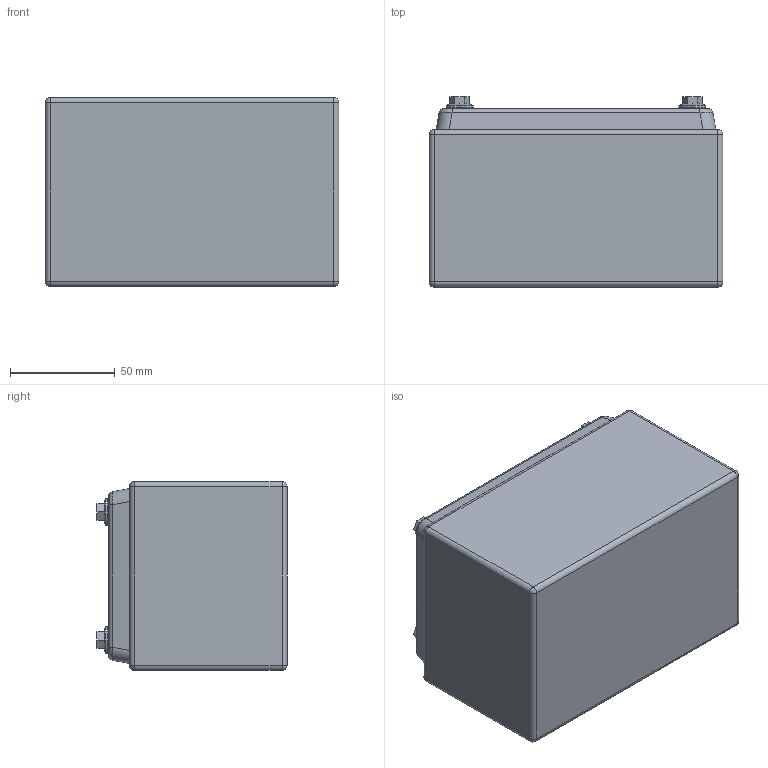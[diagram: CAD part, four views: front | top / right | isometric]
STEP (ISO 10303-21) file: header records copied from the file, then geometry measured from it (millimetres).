
FILE_DESCRIPTION (( 'STEP AP203' ), '1' );
FILE_NAME ('PE02-304A.STEP', '2021-02-23T14:36:02', ( '' ), ( '' ), 'SwSTEP 2.0', 'SolidWorks 2020', '' );
FILE_SCHEMA (( 'CONFIG_CONTROL_DESIGN' ));
Length unit declared in the file: millimetre
Products named in the file (1): PE02-304A
Bounding box: 140 x 90.6 x 90 mm (x, y, z)
Volume: 116765.2 mm3; surface area: 157874.3 mm2
Topology: 20 solids, 20 shells, 499 faces, 1192 edges, 758 vertices
Faces by surface type: plane 267, cylinder 180, cone 20, sphere 16, bspline 16
Entity records: 15805 total; most frequent: CARTESIAN_POINT 4134, DIRECTION 2412, ORIENTED_EDGE 2352, EDGE_CURVE 1176, AXIS2_PLACEMENT_3D 844, VERTEX_POINT 758, VECTOR 724, LINE 724
